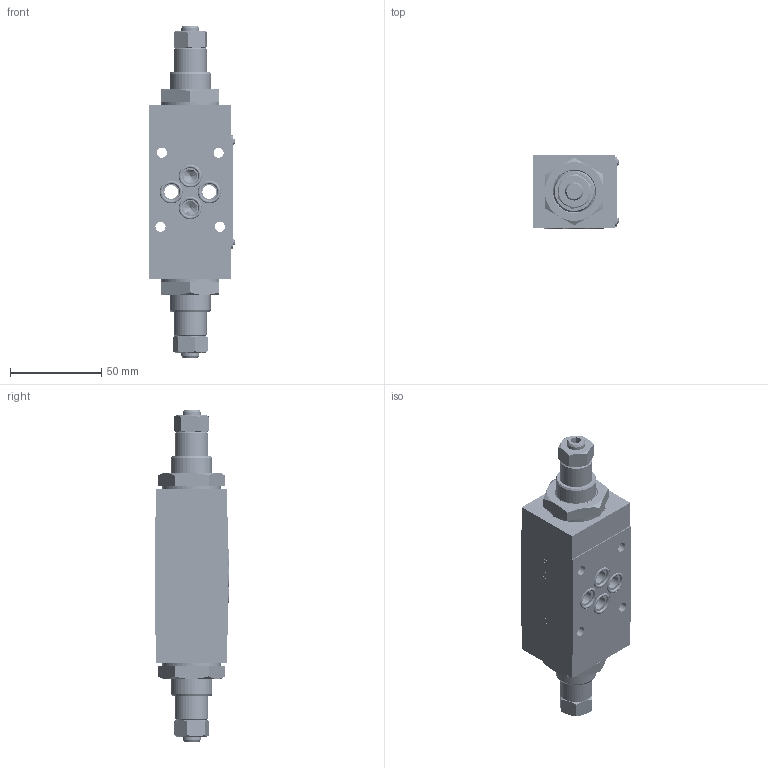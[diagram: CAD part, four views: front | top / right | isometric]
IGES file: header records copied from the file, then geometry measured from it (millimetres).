
Start section: SolidWorks IGES file using analytic representation for surfaces
Global section: file name: C:\Users\user\Desktop\FT358-5-AB-03-H.IGS; native system: SolidWorks 2014; preprocessor: SolidWorks 2014; author: user; date: 140618.083208; units: millimetre
Bounding box: 46.96 x 40.38 x 181.6 mm (x, y, z)
Surface area: 73002.1 mm2 (no closed solid volume)
Topology: 0 solids, 0 shells, 2233 faces, 27923 edges, 27903 vertices
Faces by surface type: bspline 1555, revolution 678
